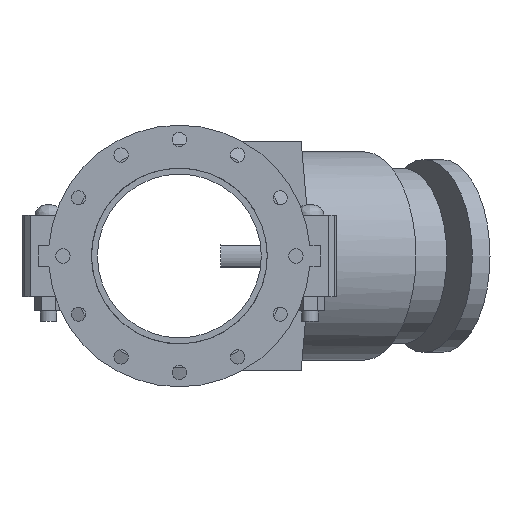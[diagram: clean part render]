
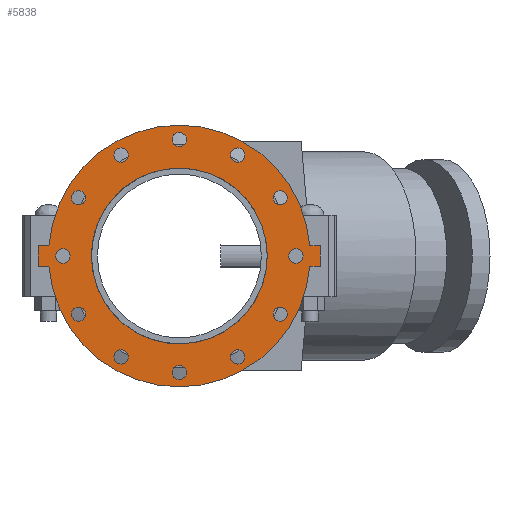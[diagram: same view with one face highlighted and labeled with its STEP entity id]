
A CAD part, front view. The second image highlights one B-rep face of the part: STEP entity #5838.
In plain terms, the highlighted planar face has unit normal (0, -1, 0) as drawn and (0, 0, 1) by its records, which use the part's own axes.
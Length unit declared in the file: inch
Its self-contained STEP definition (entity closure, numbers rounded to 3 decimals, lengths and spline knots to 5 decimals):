
#160=FACE_BOUND('',#783,.T.);
#161=FACE_BOUND('',#784,.T.);
#162=FACE_BOUND('',#785,.T.);
#163=FACE_BOUND('',#786,.T.);
#164=FACE_BOUND('',#787,.T.);
#165=FACE_BOUND('',#788,.T.);
#166=FACE_BOUND('',#789,.T.);
#167=FACE_BOUND('',#790,.T.);
#168=FACE_BOUND('',#791,.T.);
#169=FACE_BOUND('',#792,.T.);
#170=FACE_BOUND('',#793,.T.);
#171=FACE_BOUND('',#794,.T.);
#172=FACE_BOUND('',#795,.T.);
#242=PLANE('',#6401);
#447=FACE_OUTER_BOUND('',#782,.T.);
#782=EDGE_LOOP('',(#3843,#3844,#3845,#3846,#3847,#3848,#3849,#3850));
#783=EDGE_LOOP('',(#3851));
#784=EDGE_LOOP('',(#3852));
#785=EDGE_LOOP('',(#3853));
#786=EDGE_LOOP('',(#3854));
#787=EDGE_LOOP('',(#3855));
#788=EDGE_LOOP('',(#3856));
#789=EDGE_LOOP('',(#3857));
#790=EDGE_LOOP('',(#3858));
#791=EDGE_LOOP('',(#3859));
#792=EDGE_LOOP('',(#3860));
#793=EDGE_LOOP('',(#3861));
#794=EDGE_LOOP('',(#3862));
#795=EDGE_LOOP('',(#3863,#3864));
#1181=LINE('',#8996,#1604);
#1182=LINE('',#8999,#1605);
#1185=LINE('',#9004,#1608);
#1186=LINE('',#9007,#1609);
#1188=LINE('',#9010,#1611);
#1189=LINE('',#9012,#1612);
#1604=VECTOR('',#7175,0.3937);
#1605=VECTOR('',#7178,0.3937);
#1608=VECTOR('',#7183,0.3937);
#1609=VECTOR('',#7186,0.3937);
#1611=VECTOR('',#7190,0.3937);
#1612=VECTOR('',#7193,0.3937);
#2003=CIRCLE('',#6348,0.4375);
#2005=CIRCLE('',#6351,0.4375);
#2007=CIRCLE('',#6354,0.4375);
#2009=CIRCLE('',#6357,0.4375);
#2011=CIRCLE('',#6360,0.4375);
#2013=CIRCLE('',#6363,0.4375);
#2015=CIRCLE('',#6366,0.4375);
#2017=CIRCLE('',#6369,0.4375);
#2019=CIRCLE('',#6372,0.4375);
#2021=CIRCLE('',#6375,0.4375);
#2023=CIRCLE('',#6378,0.4375);
#2025=CIRCLE('',#6381,0.4375);
#2031=CIRCLE('',#6389,8.);
#2032=CIRCLE('',#6391,5.375);
#2033=CIRCLE('',#6392,5.375);
#2034=CIRCLE('',#6394,8.);
#2351=VERTEX_POINT('',#8883);
#2353=VERTEX_POINT('',#8889);
#2355=VERTEX_POINT('',#8895);
#2357=VERTEX_POINT('',#8901);
#2359=VERTEX_POINT('',#8907);
#2361=VERTEX_POINT('',#8913);
#2363=VERTEX_POINT('',#8919);
#2365=VERTEX_POINT('',#8925);
#2367=VERTEX_POINT('',#8931);
#2369=VERTEX_POINT('',#8937);
#2371=VERTEX_POINT('',#8943);
#2373=VERTEX_POINT('',#8949);
#2385=VERTEX_POINT('',#8976);
#2386=VERTEX_POINT('',#8978);
#2387=VERTEX_POINT('',#8982);
#2388=VERTEX_POINT('',#8984);
#2389=VERTEX_POINT('',#8988);
#2390=VERTEX_POINT('',#8990);
#2391=VERTEX_POINT('',#8994);
#2392=VERTEX_POINT('',#8998);
#2393=VERTEX_POINT('',#9002);
#2394=VERTEX_POINT('',#9006);
#2915=EDGE_CURVE('',#2351,#2351,#2003,.T.);
#2918=EDGE_CURVE('',#2353,#2353,#2005,.T.);
#2921=EDGE_CURVE('',#2355,#2355,#2007,.T.);
#2924=EDGE_CURVE('',#2357,#2357,#2009,.T.);
#2927=EDGE_CURVE('',#2359,#2359,#2011,.T.);
#2930=EDGE_CURVE('',#2361,#2361,#2013,.T.);
#2933=EDGE_CURVE('',#2363,#2363,#2015,.T.);
#2936=EDGE_CURVE('',#2365,#2365,#2017,.T.);
#2939=EDGE_CURVE('',#2367,#2367,#2019,.T.);
#2942=EDGE_CURVE('',#2369,#2369,#2021,.T.);
#2945=EDGE_CURVE('',#2371,#2371,#2023,.T.);
#2948=EDGE_CURVE('',#2373,#2373,#2025,.T.);
#2963=EDGE_CURVE('',#2385,#2386,#2031,.T.);
#2965=EDGE_CURVE('',#2388,#2387,#2032,.T.);
#2966=EDGE_CURVE('',#2387,#2388,#2033,.T.);
#2968=EDGE_CURVE('',#2390,#2389,#2034,.T.);
#2971=EDGE_CURVE('',#2386,#2391,#1181,.T.);
#2972=EDGE_CURVE('',#2392,#2390,#1182,.T.);
#2975=EDGE_CURVE('',#2389,#2393,#1185,.T.);
#2976=EDGE_CURVE('',#2394,#2385,#1186,.T.);
#2978=EDGE_CURVE('',#2393,#2394,#1188,.T.);
#2979=EDGE_CURVE('',#2391,#2392,#1189,.T.);
#3843=ORIENTED_EDGE('',*,*,#2975,.T.);
#3844=ORIENTED_EDGE('',*,*,#2978,.T.);
#3845=ORIENTED_EDGE('',*,*,#2976,.T.);
#3846=ORIENTED_EDGE('',*,*,#2963,.T.);
#3847=ORIENTED_EDGE('',*,*,#2971,.T.);
#3848=ORIENTED_EDGE('',*,*,#2979,.T.);
#3849=ORIENTED_EDGE('',*,*,#2972,.T.);
#3850=ORIENTED_EDGE('',*,*,#2968,.T.);
#3851=ORIENTED_EDGE('',*,*,#2915,.T.);
#3852=ORIENTED_EDGE('',*,*,#2918,.T.);
#3853=ORIENTED_EDGE('',*,*,#2921,.T.);
#3854=ORIENTED_EDGE('',*,*,#2924,.T.);
#3855=ORIENTED_EDGE('',*,*,#2927,.T.);
#3856=ORIENTED_EDGE('',*,*,#2930,.T.);
#3857=ORIENTED_EDGE('',*,*,#2933,.T.);
#3858=ORIENTED_EDGE('',*,*,#2936,.T.);
#3859=ORIENTED_EDGE('',*,*,#2939,.T.);
#3860=ORIENTED_EDGE('',*,*,#2942,.T.);
#3861=ORIENTED_EDGE('',*,*,#2945,.T.);
#3862=ORIENTED_EDGE('',*,*,#2948,.T.);
#3863=ORIENTED_EDGE('',*,*,#2965,.T.);
#3864=ORIENTED_EDGE('',*,*,#2966,.T.);
#5838=ADVANCED_FACE('',(#447,#160,#161,#162,#163,#164,#165,#166,#167,#168,
#169,#170,#171,#172),#242,.T.);
#6348=AXIS2_PLACEMENT_3D('',#8884,#7055,#7056);
#6351=AXIS2_PLACEMENT_3D('',#8890,#7062,#7063);
#6354=AXIS2_PLACEMENT_3D('',#8896,#7069,#7070);
#6357=AXIS2_PLACEMENT_3D('',#8902,#7076,#7077);
#6360=AXIS2_PLACEMENT_3D('',#8908,#7083,#7084);
#6363=AXIS2_PLACEMENT_3D('',#8914,#7090,#7091);
#6366=AXIS2_PLACEMENT_3D('',#8920,#7097,#7098);
#6369=AXIS2_PLACEMENT_3D('',#8926,#7104,#7105);
#6372=AXIS2_PLACEMENT_3D('',#8932,#7111,#7112);
#6375=AXIS2_PLACEMENT_3D('',#8938,#7118,#7119);
#6378=AXIS2_PLACEMENT_3D('',#8944,#7125,#7126);
#6381=AXIS2_PLACEMENT_3D('',#8950,#7132,#7133);
#6389=AXIS2_PLACEMENT_3D('',#8980,#7157,#7158);
#6391=AXIS2_PLACEMENT_3D('',#8985,#7162,#7163);
#6392=AXIS2_PLACEMENT_3D('',#8986,#7164,#7165);
#6394=AXIS2_PLACEMENT_3D('',#8991,#7169,#7170);
#6401=AXIS2_PLACEMENT_3D('',#9013,#7194,#7195);
#7055=DIRECTION('center_axis',(0.,0.,-1.));
#7056=DIRECTION('ref_axis',(-0.866,0.5,0.));
#7062=DIRECTION('center_axis',(0.,0.,-1.));
#7063=DIRECTION('ref_axis',(-0.5,0.866,0.));
#7069=DIRECTION('center_axis',(0.,0.,-1.));
#7070=DIRECTION('ref_axis',(0.,1.,0.));
#7076=DIRECTION('center_axis',(0.,0.,-1.));
#7077=DIRECTION('ref_axis',(0.5,0.866,0.));
#7083=DIRECTION('center_axis',(0.,0.,-1.));
#7084=DIRECTION('ref_axis',(0.866,0.5,0.));
#7090=DIRECTION('center_axis',(0.,0.,-1.));
#7091=DIRECTION('ref_axis',(1.,0.,0.));
#7097=DIRECTION('center_axis',(0.,0.,-1.));
#7098=DIRECTION('ref_axis',(0.866,-0.5,0.));
#7104=DIRECTION('center_axis',(0.,0.,-1.));
#7105=DIRECTION('ref_axis',(0.5,-0.866,0.));
#7111=DIRECTION('center_axis',(0.,0.,-1.));
#7112=DIRECTION('ref_axis',(0.,-1.,0.));
#7118=DIRECTION('center_axis',(0.,0.,-1.));
#7119=DIRECTION('ref_axis',(-0.5,-0.866,0.));
#7125=DIRECTION('center_axis',(0.,0.,-1.));
#7126=DIRECTION('ref_axis',(-0.866,-0.5,0.));
#7132=DIRECTION('center_axis',(0.,0.,-1.));
#7133=DIRECTION('ref_axis',(-1.,0.,0.));
#7157=DIRECTION('center_axis',(0.,0.,1.));
#7158=DIRECTION('ref_axis',(-1.,0.,0.));
#7162=DIRECTION('center_axis',(0.,0.,-1.));
#7163=DIRECTION('ref_axis',(-1.,0.,0.));
#7164=DIRECTION('center_axis',(0.,0.,-1.));
#7165=DIRECTION('ref_axis',(-1.,0.,0.));
#7169=DIRECTION('center_axis',(0.,0.,1.));
#7170=DIRECTION('ref_axis',(-1.,0.,0.));
#7175=DIRECTION('',(0.,1.,0.));
#7178=DIRECTION('',(0.,-1.,0.));
#7183=DIRECTION('',(0.,-1.,0.));
#7186=DIRECTION('',(0.,1.,0.));
#7190=DIRECTION('',(1.,0.,0.));
#7193=DIRECTION('',(-1.,0.,0.));
#7194=DIRECTION('center_axis',(0.,0.,1.));
#7195=DIRECTION('ref_axis',(1.,0.,0.));
#8883=CARTESIAN_POINT('',(-5.79154,3.34375,0.625));
#8884=CARTESIAN_POINT('Origin',(-6.17043,3.5625,0.625));
#8889=CARTESIAN_POINT('',(-3.34375,5.79154,0.625));
#8890=CARTESIAN_POINT('Origin',(-3.5625,6.17043,0.625));
#8895=CARTESIAN_POINT('',(0.,6.6875,0.625));
#8896=CARTESIAN_POINT('Origin',(0.,7.125,0.625));
#8901=CARTESIAN_POINT('',(3.34375,5.79154,0.625));
#8902=CARTESIAN_POINT('Origin',(3.5625,6.17043,0.625));
#8907=CARTESIAN_POINT('',(5.79154,3.34375,0.625));
#8908=CARTESIAN_POINT('Origin',(6.17043,3.5625,0.625));
#8913=CARTESIAN_POINT('',(6.6875,0.,0.625));
#8914=CARTESIAN_POINT('Origin',(7.125,0.,0.625));
#8919=CARTESIAN_POINT('',(5.79154,-3.34375,0.625));
#8920=CARTESIAN_POINT('Origin',(6.17043,-3.5625,0.625));
#8925=CARTESIAN_POINT('',(3.34375,-5.79154,0.625));
#8926=CARTESIAN_POINT('Origin',(3.5625,-6.17043,0.625));
#8931=CARTESIAN_POINT('',(0.,-6.6875,0.625));
#8932=CARTESIAN_POINT('Origin',(0.,-7.125,0.625));
#8937=CARTESIAN_POINT('',(-3.34375,-5.79154,0.625));
#8938=CARTESIAN_POINT('Origin',(-3.5625,-6.17043,0.625));
#8943=CARTESIAN_POINT('',(-5.79154,-3.34375,0.625));
#8944=CARTESIAN_POINT('Origin',(-6.17043,-3.5625,0.625));
#8949=CARTESIAN_POINT('',(-6.6875,0.,0.625));
#8950=CARTESIAN_POINT('Origin',(-7.125,0.,0.625));
#8976=CARTESIAN_POINT('',(0.625,-7.97555,0.625));
#8978=CARTESIAN_POINT('',(0.625,7.97555,0.625));
#8980=CARTESIAN_POINT('Origin',(0.,0.,0.625));
#8982=CARTESIAN_POINT('',(5.375,0.,0.625));
#8984=CARTESIAN_POINT('',(0.625,5.33854,0.625));
#8985=CARTESIAN_POINT('Origin',(0.,0.,0.625));
#8986=CARTESIAN_POINT('Origin',(0.,0.,0.625));
#8988=CARTESIAN_POINT('',(-0.625,-7.97555,0.625));
#8990=CARTESIAN_POINT('',(-0.625,7.97555,0.625));
#8991=CARTESIAN_POINT('Origin',(0.,0.,0.625));
#8994=CARTESIAN_POINT('',(0.625,8.625,0.625));
#8996=CARTESIAN_POINT('',(0.625,8.625,0.625));
#8998=CARTESIAN_POINT('',(-0.625,8.625,0.625));
#8999=CARTESIAN_POINT('',(-0.625,-8.625,0.625));
#9002=CARTESIAN_POINT('',(-0.625,-8.625,0.625));
#9004=CARTESIAN_POINT('',(-0.625,-8.625,0.625));
#9006=CARTESIAN_POINT('',(0.625,-8.625,0.625));
#9007=CARTESIAN_POINT('',(0.625,8.625,0.625));
#9010=CARTESIAN_POINT('',(0.625,-8.625,0.625));
#9012=CARTESIAN_POINT('',(-0.625,8.625,0.625));
#9013=CARTESIAN_POINT('Origin',(0.,0.,0.625));
